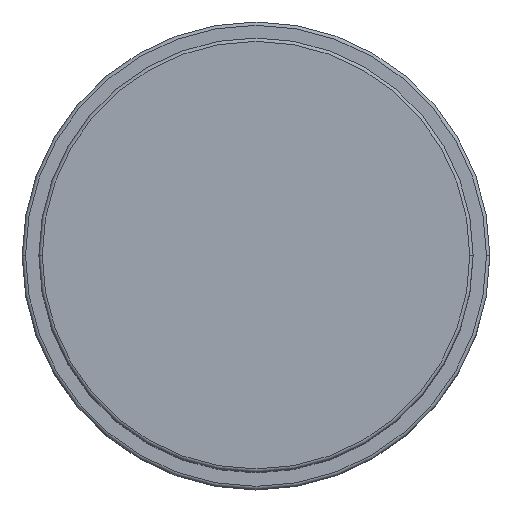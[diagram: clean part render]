
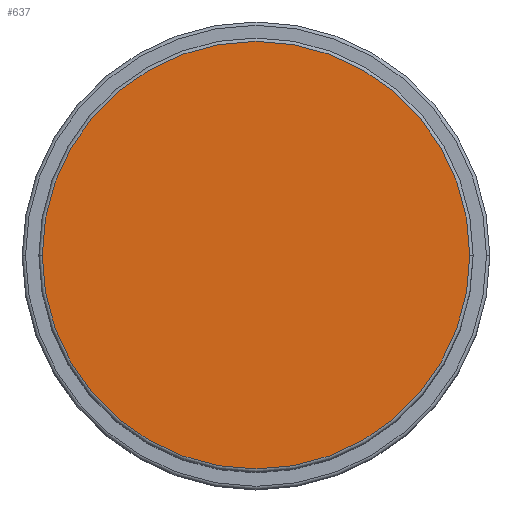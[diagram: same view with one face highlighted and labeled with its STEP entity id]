
A CAD part, top view. The second image highlights one B-rep face of the part: STEP entity #637.
In plain terms, the highlighted planar face has unit normal (0, 0, 1).
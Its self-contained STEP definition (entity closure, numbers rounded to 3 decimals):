
#86 = AXIS2_PLACEMENT_3D ( 'NONE', #1570, #1304, #1575 ) ;
#111 = DIRECTION ( 'NONE',  ( 1., 0., 0. ) ) ;
#169 = VERTEX_POINT ( 'NONE', #1232 ) ;
#270 = CARTESIAN_POINT ( 'NONE',  ( -32., 0., 87. ) ) ;
#300 = DIRECTION ( 'NONE',  ( 0., 0., 1. ) ) ;
#308 = CARTESIAN_POINT ( 'NONE',  ( 0., 0., 87. ) ) ;
#429 = CIRCLE ( 'NONE', #86, 32. ) ;
#493 = EDGE_LOOP ( 'NONE', ( #1269, #1437 ) ) ;
#578 = FACE_OUTER_BOUND ( 'NONE', #493, .T. ) ;
#597 = VERTEX_POINT ( 'NONE', #270 ) ;
#610 = EDGE_CURVE ( 'NONE', #597, #169, #429, .T. ) ;
#637 = ADVANCED_FACE ( 'NONE', ( #578 ), #1467, .T. ) ;
#702 = CIRCLE ( 'NONE', #1293, 32. ) ;
#754 = CARTESIAN_POINT ( 'NONE',  ( 0., 0., 87. ) ) ;
#962 = DIRECTION ( 'NONE',  ( 1., 0., 0. ) ) ;
#988 = EDGE_CURVE ( 'NONE', #169, #597, #702, .T. ) ;
#1232 = CARTESIAN_POINT ( 'NONE',  ( 32., 0., 87. ) ) ;
#1269 = ORIENTED_EDGE ( 'NONE', *, *, #988, .T. ) ;
#1293 = AXIS2_PLACEMENT_3D ( 'NONE', #754, #1365, #111 ) ;
#1304 = DIRECTION ( 'NONE',  ( 0., 0., 1. ) ) ;
#1365 = DIRECTION ( 'NONE',  ( 0., 0., 1. ) ) ;
#1402 = AXIS2_PLACEMENT_3D ( 'NONE', #308, #300, #962 ) ;
#1437 = ORIENTED_EDGE ( 'NONE', *, *, #610, .T. ) ;
#1467 = PLANE ( 'NONE',  #1402 ) ;
#1570 = CARTESIAN_POINT ( 'NONE',  ( 0., 0., 87. ) ) ;
#1575 = DIRECTION ( 'NONE',  ( 1., 0., 0. ) ) ;
